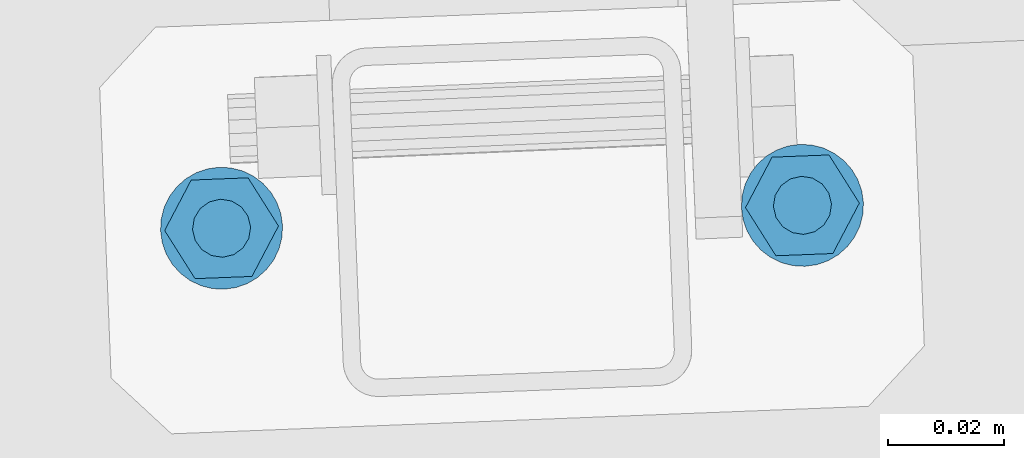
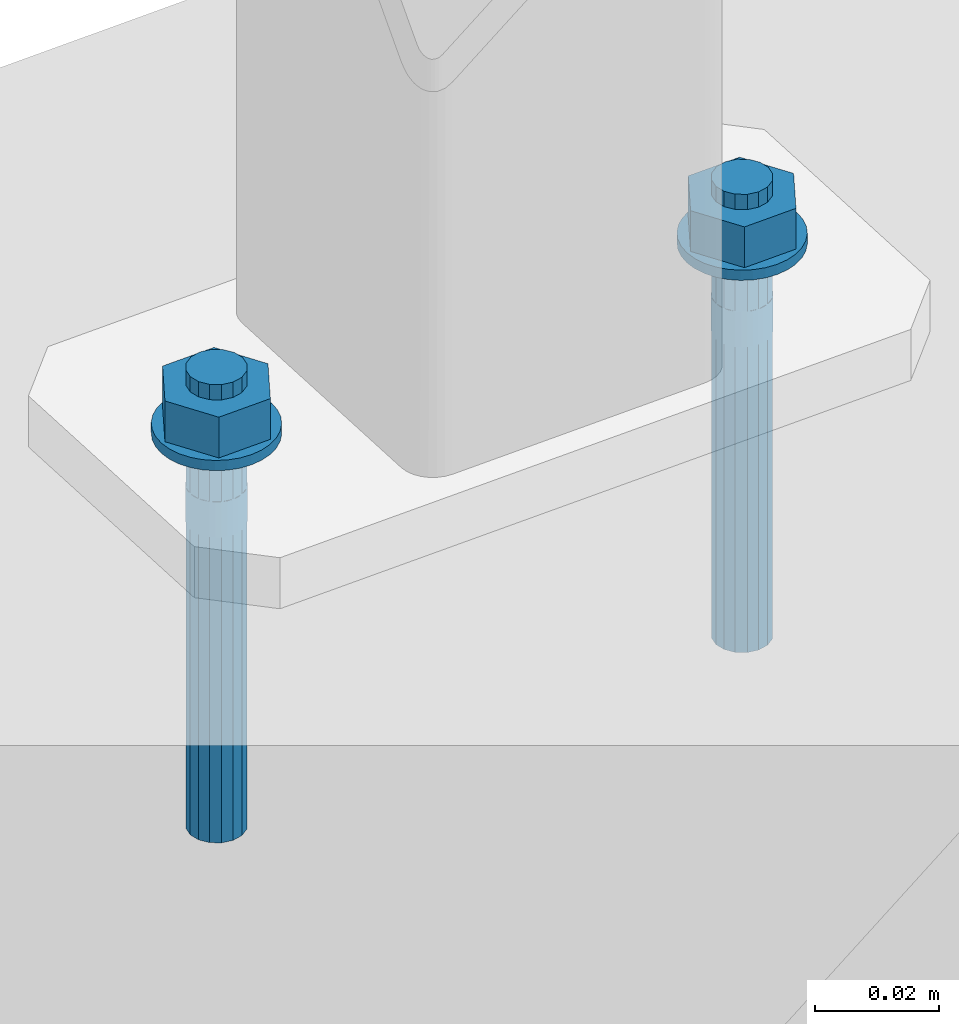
# One storey, part 269 of 288: 2 mechanical fasteners.
"""IFC2X3 building model written with IfcOpenShell, lengths in millimetres."""

from ifc_helpers import new_model, entity, si_unit, converted_unit, origin_with_axes, place, context, project, spatial, faceted_brep, element, save


model = new_model("IFC2X3")

# Units and contexts
model_context = context("Model", 3, precision=1e-09, world=origin_with_axes())
ifc_project = project(units=[si_unit("LENGTHUNIT", "METRE", prefix="MILLI"), si_unit("AREAUNIT", "SQUARE_METRE"), si_unit("VOLUMEUNIT", "CUBIC_METRE"), converted_unit("PLANEANGLEUNIT", "DEGREE", entity("IfcPlaneAngleMeasure", 0.01745329), si_unit("PLANEANGLEUNIT", "RADIAN"), dimensions=[0, 0, 0, 0, 0, 0, 0])], contexts=[model_context])

# Site, building, storey
site_placement = place(None, origin_with_axes())
site = spatial("IfcSite", under=ifc_project, at=site_placement, Name="Remont ?wietlik?w nad MC w NCPP w Opolu", CompositionType="ELEMENT")
building_placement = place(site_placement, origin_with_axes())
building = spatial("IfcBuilding", under=site, at=building_placement, Name="Konstrukcja 1", CompositionType="ELEMENT")
storey_placement = place(building_placement, origin_with_axes())
storey = spatial("IfcBuildingStorey", under=building, at=storey_placement, Name="Default Storey", CompositionType="ELEMENT", Elevation=0.0)

# Mechanical fasteners
mechanical_fastener_1_placement = place(None, origin_with_axes())
element("IfcMechanicalFastener", 1, at=mechanical_fastener_1_placement, inside=storey, ObjectType="Anchor_Bolt", NominalDiameter=10.0, NominalLength=90.0, context=model_context, shape_type="Brep", body=[
    faceted_brep([(9884.577256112, 13947.524081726, 12.000000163), (9884.577256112, 13947.524081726, 10.000000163), (9882.538345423, 13947.241789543, 10.000000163), (9882.538345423, 13947.241789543, 12.000000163), (9880.593684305, 13946.567149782, 10.000000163), (9880.593684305, 13946.567149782, 12.000000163), (9878.818004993, 13945.526088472, 10.000000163), (9878.818004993, 13945.526088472, 12.000000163), (9877.279545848, 13944.158613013, 10.000000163), (9877.279545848, 13944.158613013, 12.000000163), (9876.037428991, 13942.517274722, 10.000000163), (9876.037428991, 13942.517274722, 12.000000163), (9875.139388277, 13940.665149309, 10.000000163), (9875.139388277, 13940.665149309, 12.000000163), (9874.619934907, 13938.673412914, 10.000000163), (9874.619934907, 13938.673412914, 12.000000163), (9874.499031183, 13936.61860685, 10.000000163), (9874.499031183, 13936.61860685, 12.000000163), (9874.781323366, 13934.579696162, 10.000000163), (9874.781323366, 13934.579696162, 12.000000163), (9875.455963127, 13932.635035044, 10.000000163), (9875.455963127, 13932.635035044, 12.000000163), (9876.497024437, 13930.859355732, 10.000000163), (9876.497024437, 13930.859355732, 12.000000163), (9877.864499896, 13929.320896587, 10.000000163), (9877.864499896, 13929.320896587, 12.000000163), (9879.505838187, 13928.07877973, 10.000000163), (9879.505838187, 13928.07877973, 12.000000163), (9881.3579636, 13927.180739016, 10.000000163), (9881.3579636, 13927.180739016, 12.000000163), (9883.349699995, 13926.661285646, 10.000000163), (9883.349699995, 13926.661285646, 12.000000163), (9885.404506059, 13926.540381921, 10.000000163), (9885.404506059, 13926.540381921, 12.000000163), (9887.443416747, 13926.822674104, 10.000000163), (9887.443416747, 13926.822674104, 12.000000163), (9889.388077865, 13927.497313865, 10.000000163), (9889.388077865, 13927.497313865, 12.000000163), (9891.163757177, 13928.538375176, 10.000000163), (9891.163757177, 13928.538375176, 12.000000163), (9892.702216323, 13929.905850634, 10.000000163), (9892.702216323, 13929.905850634, 12.000000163), (9893.944333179, 13931.547188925, 10.000000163), (9893.944333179, 13931.547188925, 12.000000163), (9894.842373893, 13933.399314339, 10.000000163), (9894.842373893, 13933.399314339, 12.000000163), (9895.361827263, 13935.391050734, 10.000000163), (9895.361827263, 13935.391050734, 12.000000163), (9895.482730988, 13937.445856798, 10.000000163), (9895.482730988, 13937.445856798, 12.000000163), (9895.200438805, 13939.484767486, 10.000000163), (9895.200438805, 13939.484767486, 12.000000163), (9894.525799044, 13941.429428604, 10.000000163), (9894.525799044, 13941.429428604, 12.000000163), (9893.484737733, 13943.205107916, 10.000000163), (9893.484737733, 13943.205107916, 12.000000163), (9892.117262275, 13944.743567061, 10.000000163), (9892.117262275, 13944.743567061, 12.000000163), (9890.475923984, 13945.985683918, 10.000000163), (9890.475923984, 13945.985683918, 12.000000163), (9888.623798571, 13946.883724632, 10.000000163), (9888.623798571, 13946.883724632, 12.000000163), (9886.632062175, 13947.403178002, 10.000000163), (9886.632062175, 13947.403178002, 12.000000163)], [[[0, 1, 2, 3]], [[3, 2, 4, 5]], [[5, 4, 6, 7]], [[7, 6, 8, 9]], [[9, 8, 10, 11]], [[11, 10, 12, 13]], [[13, 12, 14, 15]], [[15, 14, 16, 17]], [[17, 16, 18, 19]], [[19, 18, 20, 21]], [[21, 20, 22, 23]], [[23, 22, 24, 25]], [[25, 24, 26, 27]], [[27, 26, 28, 29]], [[29, 28, 30, 31]], [[31, 30, 32, 33]], [[33, 32, 34, 35]], [[35, 34, 36, 37]], [[37, 36, 38, 39]], [[39, 38, 40, 41]], [[41, 40, 42, 43]], [[43, 42, 44, 45]], [[45, 44, 46, 47]], [[47, 46, 48, 49]], [[49, 48, 50, 51]], [[51, 50, 52, 53]], [[53, 52, 54, 55]], [[55, 54, 56, 57]], [[57, 56, 58, 59]], [[59, 58, 60, 61]], [[61, 60, 62, 63]], [[63, 62, 1, 0]], [[0, 3, 5, 7, 9, 11, 13, 15, 17, 19, 21, 23, 25, 27, 29, 31, 33, 35, 37, 39, 41, 43, 45, 47, 49, 51, 53, 55, 57, 59, 61, 63]], [[1, 62, 60, 58, 56, 54, 52, 50, 48, 46, 44, 42, 40, 38, 36, 34, 32, 30, 28, 26, 24, 22, 20, 18, 16, 14, 12, 10, 8, 6, 4, 2]]]),
    faceted_brep([(9880.42901355, 13928.358745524, 12.000000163), (9880.42901355, 13928.358745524, 20.000000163), (9875.198487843, 13936.646181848, 20.000000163), (9875.198487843, 13936.646181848, 12.000000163), (9879.760355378, 13945.319668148, 20.000000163), (9879.760355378, 13945.319668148, 12.000000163), (9889.552748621, 13945.705718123, 20.000000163), (9889.552748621, 13945.705718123, 12.000000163), (9894.783274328, 13937.418281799, 20.000000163), (9894.783274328, 13937.418281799, 12.000000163), (9890.221406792, 13928.7447955, 20.000000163), (9890.221406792, 13928.7447955, 12.000000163)], [[[0, 1, 2, 3]], [[3, 2, 4, 5]], [[5, 4, 6, 7]], [[7, 6, 8, 9]], [[9, 8, 10, 11]], [[11, 10, 1, 0]], [[4, 2, 1, 10, 8, 6]], [[0, 3, 5, 7, 9, 11]]]),
    faceted_brep([(9884.793916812, 13942.028350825, 23.000000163), (9884.793916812, 13942.028350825, 20.000000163), (9882.896977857, 13941.572668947, 20.000000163), (9882.896977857, 13941.572668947, 23.000000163), (9881.318816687, 13940.425746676, 20.000000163), (9881.318816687, 13940.425746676, 23.000000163), (9880.299694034, 13938.762192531, 20.000000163), (9880.299694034, 13938.762192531, 23.000000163), (9879.994762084, 13936.835267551, 20.000000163), (9879.994762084, 13936.835267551, 23.000000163), (9880.450443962, 13934.938328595, 20.000000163), (9880.450443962, 13934.938328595, 23.000000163), (9881.597366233, 13933.360167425, 20.000000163), (9881.597366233, 13933.360167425, 23.000000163), (9883.260920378, 13932.341044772, 20.000000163), (9883.260920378, 13932.341044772, 23.000000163), (9885.187845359, 13932.036112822, 20.000000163), (9885.187845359, 13932.036112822, 23.000000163), (9887.084784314, 13932.491794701, 20.000000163), (9887.084784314, 13932.491794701, 23.000000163), (9888.662945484, 13933.638716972, 20.000000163), (9888.662945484, 13933.638716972, 23.000000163), (9889.682068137, 13935.302271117, 20.000000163), (9889.682068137, 13935.302271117, 23.000000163), (9889.987000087, 13937.229196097, 20.000000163), (9889.987000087, 13937.229196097, 23.000000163), (9889.531318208, 13939.126135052, 20.000000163), (9889.531318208, 13939.126135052, 23.000000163), (9888.384395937, 13940.704296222, 20.000000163), (9888.384395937, 13940.704296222, 23.000000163), (9886.720841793, 13941.723418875, 20.000000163), (9886.720841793, 13941.723418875, 23.000000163)], [[[0, 1, 2, 3]], [[3, 2, 4, 5]], [[5, 4, 6, 7]], [[7, 6, 8, 9]], [[9, 8, 10, 11]], [[11, 10, 12, 13]], [[13, 12, 14, 15]], [[15, 14, 16, 17]], [[17, 16, 18, 19]], [[19, 18, 20, 21]], [[21, 20, 22, 23]], [[23, 22, 24, 25]], [[25, 24, 26, 27]], [[27, 26, 28, 29]], [[29, 28, 30, 31]], [[31, 30, 1, 0]], [[0, 3, 5, 7, 9, 11, 13, 15, 17, 19, 21, 23, 25, 27, 29, 31]], [[1, 30, 28, 26, 24, 22, 20, 18, 16, 14, 12, 10, 8, 6, 4, 2]]]),
    faceted_brep([(9884.793916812, 13942.028350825, 10.000000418), (9884.793916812, 13942.028350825, 1.63e-07), (9882.896977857, 13941.572668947, 1.63e-07), (9882.896977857, 13941.572668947, 10.000000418), (9881.318816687, 13940.425746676, 1.63e-07), (9881.318816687, 13940.425746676, 10.000000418), (9880.299694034, 13938.762192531, 1.63e-07), (9880.299694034, 13938.762192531, 10.000000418), (9879.994762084, 13936.835267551, 1.63e-07), (9879.994762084, 13936.835267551, 10.000000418), (9880.450443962, 13934.938328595, 1.63e-07), (9880.450443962, 13934.938328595, 10.000000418), (9881.597366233, 13933.360167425, 1.63e-07), (9881.597366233, 13933.360167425, 10.000000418), (9883.260920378, 13932.341044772, 1.63e-07), (9883.260920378, 13932.341044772, 10.000000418), (9885.187845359, 13932.036112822, 1.63e-07), (9885.187845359, 13932.036112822, 10.000000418), (9887.084784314, 13932.491794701, 1.63e-07), (9887.084784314, 13932.491794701, 10.000000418), (9888.662945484, 13933.638716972, 1.63e-07), (9888.662945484, 13933.638716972, 10.000000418), (9889.682068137, 13935.302271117, 1.63e-07), (9889.682068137, 13935.302271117, 10.000000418), (9889.987000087, 13937.229196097, 1.63e-07), (9889.987000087, 13937.229196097, 10.000000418), (9889.531318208, 13939.126135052, 1.63e-07), (9889.531318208, 13939.126135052, 10.000000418), (9888.384395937, 13940.704296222, 1.63e-07), (9888.384395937, 13940.704296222, 10.000000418), (9886.720841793, 13941.723418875, 1.63e-07), (9886.720841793, 13941.723418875, 10.000000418)], [[[0, 1, 2, 3]], [[3, 2, 4, 5]], [[5, 4, 6, 7]], [[7, 6, 8, 9]], [[9, 8, 10, 11]], [[11, 10, 12, 13]], [[13, 12, 14, 15]], [[15, 14, 16, 17]], [[17, 16, 18, 19]], [[19, 18, 20, 21]], [[21, 20, 22, 23]], [[23, 22, 24, 25]], [[25, 24, 26, 27]], [[27, 26, 28, 29]], [[29, 28, 30, 31]], [[31, 30, 1, 0]], [[0, 3, 5, 7, 9, 11, 13, 15, 17, 19, 21, 23, 25, 27, 29, 31]], [[1, 30, 28, 26, 24, 22, 20, 18, 16, 14, 12, 10, 8, 6, 4, 2]]]),
    faceted_brep([(9884.793916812, 13942.028350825, -9.3e-08), (9884.793916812, 13942.028350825, -6.999999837), (9883.823006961, 13941.893925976, -6.999999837), (9883.823006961, 13941.893925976, -9.3e-08), (9882.896977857, 13941.572668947, -6.999999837), (9882.896977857, 13941.572668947, -9.3e-08), (9882.05141628, 13941.076925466, -6.999999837), (9882.05141628, 13941.076925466, -9.3e-08), (9881.318816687, 13940.425746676, -6.999999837), (9881.318816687, 13940.425746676, -9.3e-08), (9880.727332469, 13939.644157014, -6.999999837), (9880.727332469, 13939.644157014, -9.3e-08), (9880.299694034, 13938.762192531, -6.999999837), (9880.299694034, 13938.762192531, -9.3e-08), (9880.052335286, 13937.813746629, -6.999999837), (9880.052335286, 13937.813746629, -9.3e-08), (9879.994762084, 13936.835267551, -6.999999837), (9879.994762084, 13936.835267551, -9.3e-08), (9880.129186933, 13935.864357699, -6.999999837), (9880.129186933, 13935.864357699, -9.3e-08), (9880.450443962, 13934.938328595, -6.999999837), (9880.450443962, 13934.938328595, -9.3e-08), (9880.946187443, 13934.092767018, -6.999999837), (9880.946187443, 13934.092767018, -9.3e-08), (9881.597366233, 13933.360167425, -6.999999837), (9881.597366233, 13933.360167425, -9.3e-08), (9882.378955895, 13932.768683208, -6.999999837), (9882.378955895, 13932.768683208, -9.3e-08), (9883.260920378, 13932.341044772, -6.999999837), (9883.260920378, 13932.341044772, -9.3e-08), (9884.20936628, 13932.093686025, -6.999999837), (9884.20936628, 13932.093686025, -9.3e-08), (9885.187845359, 13932.036112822, -6.999999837), (9885.187845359, 13932.036112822, -9.3e-08), (9886.15875521, 13932.170537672, -6.999999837), (9886.15875521, 13932.170537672, -9.3e-08), (9887.084784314, 13932.491794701, -6.999999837), (9887.084784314, 13932.491794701, -9.3e-08), (9887.930345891, 13932.987538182, -6.999999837), (9887.930345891, 13932.987538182, -9.3e-08), (9888.662945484, 13933.638716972, -6.999999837), (9888.662945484, 13933.638716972, -9.3e-08), (9889.254429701, 13934.420306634, -6.999999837), (9889.254429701, 13934.420306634, -9.3e-08), (9889.682068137, 13935.302271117, -6.999999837), (9889.682068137, 13935.302271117, -9.3e-08), (9889.929426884, 13936.250717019, -6.999999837), (9889.929426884, 13936.250717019, -9.3e-08), (9889.987000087, 13937.229196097, -6.999999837), (9889.987000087, 13937.229196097, -9.3e-08), (9889.852575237, 13938.200105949, -6.999999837), (9889.852575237, 13938.200105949, -9.3e-08), (9889.531318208, 13939.126135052, -6.999999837), (9889.531318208, 13939.126135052, -9.3e-08), (9889.035574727, 13939.971696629, -6.999999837), (9889.035574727, 13939.971696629, -9.3e-08), (9888.384395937, 13940.704296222, -6.999999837), (9888.384395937, 13940.704296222, -9.3e-08), (9887.602806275, 13941.29578044, -6.999999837), (9887.602806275, 13941.29578044, -9.3e-08), (9886.720841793, 13941.723418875, -6.999999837), (9886.720841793, 13941.723418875, -9.3e-08), (9885.77239589, 13941.970777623, -6.999999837), (9885.77239589, 13941.970777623, -9.3e-08)], [[[0, 1, 2, 3]], [[3, 2, 4, 5]], [[5, 4, 6, 7]], [[7, 6, 8, 9]], [[9, 8, 10, 11]], [[11, 10, 12, 13]], [[13, 12, 14, 15]], [[15, 14, 16, 17]], [[17, 16, 18, 19]], [[19, 18, 20, 21]], [[21, 20, 22, 23]], [[23, 22, 24, 25]], [[25, 24, 26, 27]], [[27, 26, 28, 29]], [[29, 28, 30, 31]], [[31, 30, 32, 33]], [[33, 32, 34, 35]], [[35, 34, 36, 37]], [[37, 36, 38, 39]], [[39, 38, 40, 41]], [[41, 40, 42, 43]], [[43, 42, 44, 45]], [[45, 44, 46, 47]], [[47, 46, 48, 49]], [[49, 48, 50, 51]], [[51, 50, 52, 53]], [[53, 52, 54, 55]], [[55, 54, 56, 57]], [[57, 56, 58, 59]], [[59, 58, 60, 61]], [[61, 60, 62, 63]], [[63, 62, 1, 0]], [[0, 3, 5, 7, 9, 11, 13, 15, 17, 19, 21, 23, 25, 27, 29, 31, 33, 35, 37, 39, 41, 43, 45, 47, 49, 51, 53, 55, 57, 59, 61, 63]], [[1, 62, 60, 58, 56, 54, 52, 50, 48, 46, 44, 42, 40, 38, 36, 34, 32, 30, 28, 26, 24, 22, 20, 18, 16, 14, 12, 10, 8, 6, 4, 2]]]),
    faceted_brep([(9884.793916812, 13942.028350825, -6.999999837), (9884.793916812, 13942.028350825, -66.999999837), (9882.896977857, 13941.572668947, -66.999999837), (9882.896977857, 13941.572668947, -6.999999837), (9881.318816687, 13940.425746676, -66.999999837), (9881.318816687, 13940.425746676, -6.999999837), (9880.299694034, 13938.762192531, -66.999999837), (9880.299694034, 13938.762192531, -6.999999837), (9879.994762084, 13936.835267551, -66.999999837), (9879.994762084, 13936.835267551, -6.999999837), (9880.450443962, 13934.938328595, -66.999999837), (9880.450443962, 13934.938328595, -6.999999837), (9881.597366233, 13933.360167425, -66.999999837), (9881.597366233, 13933.360167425, -6.999999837), (9883.260920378, 13932.341044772, -66.999999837), (9883.260920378, 13932.341044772, -6.999999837), (9885.187845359, 13932.036112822, -66.999999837), (9885.187845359, 13932.036112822, -6.999999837), (9887.084784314, 13932.491794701, -66.999999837), (9887.084784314, 13932.491794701, -6.999999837), (9888.662945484, 13933.638716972, -66.999999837), (9888.662945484, 13933.638716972, -6.999999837), (9889.682068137, 13935.302271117, -66.999999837), (9889.682068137, 13935.302271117, -6.999999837), (9889.987000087, 13937.229196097, -66.999999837), (9889.987000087, 13937.229196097, -6.999999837), (9889.531318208, 13939.126135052, -66.999999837), (9889.531318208, 13939.126135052, -6.999999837), (9888.384395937, 13940.704296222, -66.999999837), (9888.384395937, 13940.704296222, -6.999999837), (9886.720841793, 13941.723418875, -66.999999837), (9886.720841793, 13941.723418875, -6.999999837)], [[[0, 1, 2, 3]], [[3, 2, 4, 5]], [[5, 4, 6, 7]], [[7, 6, 8, 9]], [[9, 8, 10, 11]], [[11, 10, 12, 13]], [[13, 12, 14, 15]], [[15, 14, 16, 17]], [[17, 16, 18, 19]], [[19, 18, 20, 21]], [[21, 20, 22, 23]], [[23, 22, 24, 25]], [[25, 24, 26, 27]], [[27, 26, 28, 29]], [[29, 28, 30, 31]], [[31, 30, 1, 0]], [[0, 3, 5, 7, 9, 11, 13, 15, 17, 19, 21, 23, 25, 27, 29, 31]], [[1, 30, 28, 26, 24, 22, 20, 18, 16, 14, 12, 10, 8, 6, 4, 2]]]),
])
mechanical_fastener_2_placement = place(None, origin_with_axes())
element("IfcMechanicalFastener", 2, at=mechanical_fastener_2_placement, inside=storey, ObjectType="Anchor_Bolt", NominalDiameter=10.0, NominalLength=90.0, context=model_context, shape_type="Brep", body=[
    faceted_brep([(9784.654876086, 13943.584796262, 12.000000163), (9784.654876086, 13943.584796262, 10.000000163), (9782.615965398, 13943.302504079, 10.000000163), (9782.615965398, 13943.302504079, 12.000000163), (9780.671304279, 13942.627864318, 10.000000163), (9780.671304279, 13942.627864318, 12.000000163), (9778.895624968, 13941.586803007, 10.000000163), (9778.895624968, 13941.586803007, 12.000000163), (9777.357165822, 13940.219327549, 10.000000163), (9777.357165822, 13940.219327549, 12.000000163), (9776.115048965, 13938.577989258, 10.000000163), (9776.115048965, 13938.577989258, 12.000000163), (9775.217008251, 13936.725863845, 10.000000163), (9775.217008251, 13936.725863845, 12.000000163), (9774.697554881, 13934.73412745, 10.000000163), (9774.697554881, 13934.73412745, 12.000000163), (9774.576651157, 13932.679321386, 10.000000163), (9774.576651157, 13932.679321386, 12.000000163), (9774.85894334, 13930.640410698, 10.000000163), (9774.85894334, 13930.640410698, 12.000000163), (9775.533583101, 13928.695749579, 10.000000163), (9775.533583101, 13928.695749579, 12.000000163), (9776.574644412, 13926.920070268, 10.000000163), (9776.574644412, 13926.920070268, 12.000000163), (9777.94211987, 13925.381611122, 10.000000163), (9777.94211987, 13925.381611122, 12.000000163), (9779.583458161, 13924.139494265, 10.000000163), (9779.583458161, 13924.139494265, 12.000000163), (9781.435583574, 13923.241453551, 10.000000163), (9781.435583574, 13923.241453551, 12.000000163), (9783.427319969, 13922.722000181, 10.000000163), (9783.427319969, 13922.722000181, 12.000000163), (9785.482126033, 13922.601096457, 10.000000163), (9785.482126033, 13922.601096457, 12.000000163), (9787.521036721, 13922.88338864, 10.000000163), (9787.521036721, 13922.88338864, 12.000000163), (9789.465697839, 13923.558028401, 10.000000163), (9789.465697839, 13923.558028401, 12.000000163), (9791.241377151, 13924.599089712, 10.000000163), (9791.241377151, 13924.599089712, 12.000000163), (9792.779836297, 13925.96656517, 10.000000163), (9792.779836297, 13925.96656517, 12.000000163), (9794.021953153, 13927.607903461, 10.000000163), (9794.021953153, 13927.607903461, 12.000000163), (9794.919993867, 13929.460028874, 10.000000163), (9794.919993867, 13929.460028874, 12.000000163), (9795.439447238, 13931.451765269, 10.000000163), (9795.439447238, 13931.451765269, 12.000000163), (9795.560350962, 13933.506571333, 10.000000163), (9795.560350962, 13933.506571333, 12.000000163), (9795.278058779, 13935.545482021, 10.000000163), (9795.278058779, 13935.545482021, 12.000000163), (9794.603419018, 13937.490143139, 10.000000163), (9794.603419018, 13937.490143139, 12.000000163), (9793.562357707, 13939.265822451, 10.000000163), (9793.562357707, 13939.265822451, 12.000000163), (9792.194882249, 13940.804281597, 10.000000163), (9792.194882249, 13940.804281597, 12.000000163), (9790.553543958, 13942.046398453, 10.000000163), (9790.553543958, 13942.046398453, 12.000000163), (9788.701418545, 13942.944439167, 10.000000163), (9788.701418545, 13942.944439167, 12.000000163), (9786.70968215, 13943.463892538, 10.000000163), (9786.70968215, 13943.463892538, 12.000000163)], [[[0, 1, 2, 3]], [[3, 2, 4, 5]], [[5, 4, 6, 7]], [[7, 6, 8, 9]], [[9, 8, 10, 11]], [[11, 10, 12, 13]], [[13, 12, 14, 15]], [[15, 14, 16, 17]], [[17, 16, 18, 19]], [[19, 18, 20, 21]], [[21, 20, 22, 23]], [[23, 22, 24, 25]], [[25, 24, 26, 27]], [[27, 26, 28, 29]], [[29, 28, 30, 31]], [[31, 30, 32, 33]], [[33, 32, 34, 35]], [[35, 34, 36, 37]], [[37, 36, 38, 39]], [[39, 38, 40, 41]], [[41, 40, 42, 43]], [[43, 42, 44, 45]], [[45, 44, 46, 47]], [[47, 46, 48, 49]], [[49, 48, 50, 51]], [[51, 50, 52, 53]], [[53, 52, 54, 55]], [[55, 54, 56, 57]], [[57, 56, 58, 59]], [[59, 58, 60, 61]], [[61, 60, 62, 63]], [[63, 62, 1, 0]], [[0, 3, 5, 7, 9, 11, 13, 15, 17, 19, 21, 23, 25, 27, 29, 31, 33, 35, 37, 39, 41, 43, 45, 47, 49, 51, 53, 55, 57, 59, 61, 63]], [[1, 62, 60, 58, 56, 54, 52, 50, 48, 46, 44, 42, 40, 38, 36, 34, 32, 30, 28, 26, 24, 22, 20, 18, 16, 14, 12, 10, 8, 6, 4, 2]]]),
    faceted_brep([(9780.506633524, 13924.41946006, 12.000000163), (9780.506633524, 13924.41946006, 20.000000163), (9775.276107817, 13932.706896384, 20.000000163), (9775.276107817, 13932.706896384, 12.000000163), (9779.837975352, 13941.380382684, 20.000000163), (9779.837975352, 13941.380382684, 12.000000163), (9789.630368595, 13941.766432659, 20.000000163), (9789.630368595, 13941.766432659, 12.000000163), (9794.860894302, 13933.478996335, 20.000000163), (9794.860894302, 13933.478996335, 12.000000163), (9790.299026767, 13924.805510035, 20.000000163), (9790.299026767, 13924.805510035, 12.000000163)], [[[0, 1, 2, 3]], [[3, 2, 4, 5]], [[5, 4, 6, 7]], [[7, 6, 8, 9]], [[9, 8, 10, 11]], [[11, 10, 1, 0]], [[4, 2, 1, 10, 8, 6]], [[0, 3, 5, 7, 9, 11]]]),
    faceted_brep([(9784.871536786, 13938.089065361, 23.000000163), (9784.871536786, 13938.089065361, 20.000000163), (9782.974597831, 13937.633383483, 20.000000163), (9782.974597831, 13937.633383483, 23.000000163), (9781.396436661, 13936.486461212, 20.000000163), (9781.396436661, 13936.486461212, 23.000000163), (9780.377314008, 13934.822907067, 20.000000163), (9780.377314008, 13934.822907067, 23.000000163), (9780.072382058, 13932.895982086, 20.000000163), (9780.072382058, 13932.895982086, 23.000000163), (9780.528063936, 13930.999043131, 20.000000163), (9780.528063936, 13930.999043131, 23.000000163), (9781.674986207, 13929.420881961, 20.000000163), (9781.674986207, 13929.420881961, 23.000000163), (9783.338540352, 13928.401759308, 20.000000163), (9783.338540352, 13928.401759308, 23.000000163), (9785.265465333, 13928.096827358, 20.000000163), (9785.265465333, 13928.096827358, 23.000000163), (9787.162404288, 13928.552509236, 20.000000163), (9787.162404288, 13928.552509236, 23.000000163), (9788.740565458, 13929.699431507, 20.000000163), (9788.740565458, 13929.699431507, 23.000000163), (9789.759688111, 13931.362985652, 20.000000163), (9789.759688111, 13931.362985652, 23.000000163), (9790.064620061, 13933.289910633, 20.000000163), (9790.064620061, 13933.289910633, 23.000000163), (9789.608938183, 13935.186849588, 20.000000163), (9789.608938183, 13935.186849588, 23.000000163), (9788.462015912, 13936.765010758, 20.000000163), (9788.462015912, 13936.765010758, 23.000000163), (9786.798461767, 13937.784133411, 20.000000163), (9786.798461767, 13937.784133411, 23.000000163)], [[[0, 1, 2, 3]], [[3, 2, 4, 5]], [[5, 4, 6, 7]], [[7, 6, 8, 9]], [[9, 8, 10, 11]], [[11, 10, 12, 13]], [[13, 12, 14, 15]], [[15, 14, 16, 17]], [[17, 16, 18, 19]], [[19, 18, 20, 21]], [[21, 20, 22, 23]], [[23, 22, 24, 25]], [[25, 24, 26, 27]], [[27, 26, 28, 29]], [[29, 28, 30, 31]], [[31, 30, 1, 0]], [[0, 3, 5, 7, 9, 11, 13, 15, 17, 19, 21, 23, 25, 27, 29, 31]], [[1, 30, 28, 26, 24, 22, 20, 18, 16, 14, 12, 10, 8, 6, 4, 2]]]),
    faceted_brep([(9784.871536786, 13938.089065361, 10.000000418), (9784.871536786, 13938.089065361, 1.63e-07), (9782.974597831, 13937.633383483, 1.63e-07), (9782.974597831, 13937.633383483, 10.000000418), (9781.396436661, 13936.486461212, 1.63e-07), (9781.396436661, 13936.486461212, 10.000000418), (9780.377314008, 13934.822907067, 1.63e-07), (9780.377314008, 13934.822907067, 10.000000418), (9780.072382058, 13932.895982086, 1.63e-07), (9780.072382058, 13932.895982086, 10.000000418), (9780.528063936, 13930.999043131, 1.63e-07), (9780.528063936, 13930.999043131, 10.000000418), (9781.674986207, 13929.420881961, 1.63e-07), (9781.674986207, 13929.420881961, 10.000000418), (9783.338540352, 13928.401759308, 1.63e-07), (9783.338540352, 13928.401759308, 10.000000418), (9785.265465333, 13928.096827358, 1.63e-07), (9785.265465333, 13928.096827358, 10.000000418), (9787.162404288, 13928.552509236, 1.63e-07), (9787.162404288, 13928.552509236, 10.000000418), (9788.740565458, 13929.699431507, 1.63e-07), (9788.740565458, 13929.699431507, 10.000000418), (9789.759688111, 13931.362985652, 1.63e-07), (9789.759688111, 13931.362985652, 10.000000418), (9790.064620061, 13933.289910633, 1.63e-07), (9790.064620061, 13933.289910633, 10.000000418), (9789.608938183, 13935.186849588, 1.63e-07), (9789.608938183, 13935.186849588, 10.000000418), (9788.462015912, 13936.765010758, 1.63e-07), (9788.462015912, 13936.765010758, 10.000000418), (9786.798461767, 13937.784133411, 1.63e-07), (9786.798461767, 13937.784133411, 10.000000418)], [[[0, 1, 2, 3]], [[3, 2, 4, 5]], [[5, 4, 6, 7]], [[7, 6, 8, 9]], [[9, 8, 10, 11]], [[11, 10, 12, 13]], [[13, 12, 14, 15]], [[15, 14, 16, 17]], [[17, 16, 18, 19]], [[19, 18, 20, 21]], [[21, 20, 22, 23]], [[23, 22, 24, 25]], [[25, 24, 26, 27]], [[27, 26, 28, 29]], [[29, 28, 30, 31]], [[31, 30, 1, 0]], [[0, 3, 5, 7, 9, 11, 13, 15, 17, 19, 21, 23, 25, 27, 29, 31]], [[1, 30, 28, 26, 24, 22, 20, 18, 16, 14, 12, 10, 8, 6, 4, 2]]]),
    faceted_brep([(9784.871536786, 13938.089065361, -9.3e-08), (9784.871536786, 13938.089065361, -6.999999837), (9783.900626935, 13937.954640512, -6.999999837), (9783.900626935, 13937.954640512, -9.3e-08), (9782.974597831, 13937.633383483, -6.999999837), (9782.974597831, 13937.633383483, -9.3e-08), (9782.129036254, 13937.137640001, -6.999999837), (9782.129036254, 13937.137640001, -9.3e-08), (9781.396436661, 13936.486461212, -6.999999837), (9781.396436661, 13936.486461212, -9.3e-08), (9780.804952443, 13935.704871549, -6.999999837), (9780.804952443, 13935.704871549, -9.3e-08), (9780.377314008, 13934.822907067, -6.999999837), (9780.377314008, 13934.822907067, -9.3e-08), (9780.12995526, 13933.874461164, -6.999999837), (9780.12995526, 13933.874461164, -9.3e-08), (9780.072382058, 13932.895982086, -6.999999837), (9780.072382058, 13932.895982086, -9.3e-08), (9780.206806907, 13931.925072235, -6.999999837), (9780.206806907, 13931.925072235, -9.3e-08), (9780.528063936, 13930.999043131, -6.999999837), (9780.528063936, 13930.999043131, -9.3e-08), (9781.023807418, 13930.153481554, -6.999999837), (9781.023807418, 13930.153481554, -9.3e-08), (9781.674986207, 13929.420881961, -6.999999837), (9781.674986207, 13929.420881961, -9.3e-08), (9782.45657587, 13928.829397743, -6.999999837), (9782.45657587, 13928.829397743, -9.3e-08), (9783.338540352, 13928.401759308, -6.999999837), (9783.338540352, 13928.401759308, -9.3e-08), (9784.286986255, 13928.15440056, -6.999999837), (9784.286986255, 13928.15440056, -9.3e-08), (9785.265465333, 13928.096827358, -6.999999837), (9785.265465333, 13928.096827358, -9.3e-08), (9786.236375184, 13928.231252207, -6.999999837), (9786.236375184, 13928.231252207, -9.3e-08), (9787.162404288, 13928.552509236, -6.999999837), (9787.162404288, 13928.552509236, -9.3e-08), (9788.007965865, 13929.048252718, -6.999999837), (9788.007965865, 13929.048252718, -9.3e-08), (9788.740565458, 13929.699431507, -6.999999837), (9788.740565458, 13929.699431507, -9.3e-08), (9789.332049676, 13930.48102117, -6.999999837), (9789.332049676, 13930.48102117, -9.3e-08), (9789.759688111, 13931.362985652, -6.999999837), (9789.759688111, 13931.362985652, -9.3e-08), (9790.007046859, 13932.311431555, -6.999999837), (9790.007046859, 13932.311431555, -9.3e-08), (9790.064620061, 13933.289910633, -6.999999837), (9790.064620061, 13933.289910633, -9.3e-08), (9789.930195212, 13934.260820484, -6.999999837), (9789.930195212, 13934.260820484, -9.3e-08), (9789.608938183, 13935.186849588, -6.999999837), (9789.608938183, 13935.186849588, -9.3e-08), (9789.113194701, 13936.032411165, -6.999999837), (9789.113194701, 13936.032411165, -9.3e-08), (9788.462015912, 13936.765010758, -6.999999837), (9788.462015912, 13936.765010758, -9.3e-08), (9787.680426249, 13937.356494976, -6.999999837), (9787.680426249, 13937.356494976, -9.3e-08), (9786.798461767, 13937.784133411, -6.999999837), (9786.798461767, 13937.784133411, -9.3e-08), (9785.850015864, 13938.031492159, -6.999999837), (9785.850015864, 13938.031492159, -9.3e-08)], [[[0, 1, 2, 3]], [[3, 2, 4, 5]], [[5, 4, 6, 7]], [[7, 6, 8, 9]], [[9, 8, 10, 11]], [[11, 10, 12, 13]], [[13, 12, 14, 15]], [[15, 14, 16, 17]], [[17, 16, 18, 19]], [[19, 18, 20, 21]], [[21, 20, 22, 23]], [[23, 22, 24, 25]], [[25, 24, 26, 27]], [[27, 26, 28, 29]], [[29, 28, 30, 31]], [[31, 30, 32, 33]], [[33, 32, 34, 35]], [[35, 34, 36, 37]], [[37, 36, 38, 39]], [[39, 38, 40, 41]], [[41, 40, 42, 43]], [[43, 42, 44, 45]], [[45, 44, 46, 47]], [[47, 46, 48, 49]], [[49, 48, 50, 51]], [[51, 50, 52, 53]], [[53, 52, 54, 55]], [[55, 54, 56, 57]], [[57, 56, 58, 59]], [[59, 58, 60, 61]], [[61, 60, 62, 63]], [[63, 62, 1, 0]], [[0, 3, 5, 7, 9, 11, 13, 15, 17, 19, 21, 23, 25, 27, 29, 31, 33, 35, 37, 39, 41, 43, 45, 47, 49, 51, 53, 55, 57, 59, 61, 63]], [[1, 62, 60, 58, 56, 54, 52, 50, 48, 46, 44, 42, 40, 38, 36, 34, 32, 30, 28, 26, 24, 22, 20, 18, 16, 14, 12, 10, 8, 6, 4, 2]]]),
    faceted_brep([(9784.871536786, 13938.089065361, -6.999999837), (9784.871536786, 13938.089065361, -66.999999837), (9782.974597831, 13937.633383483, -66.999999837), (9782.974597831, 13937.633383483, -6.999999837), (9781.396436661, 13936.486461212, -66.999999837), (9781.396436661, 13936.486461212, -6.999999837), (9780.377314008, 13934.822907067, -66.999999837), (9780.377314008, 13934.822907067, -6.999999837), (9780.072382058, 13932.895982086, -66.999999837), (9780.072382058, 13932.895982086, -6.999999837), (9780.528063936, 13930.999043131, -66.999999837), (9780.528063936, 13930.999043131, -6.999999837), (9781.674986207, 13929.420881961, -66.999999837), (9781.674986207, 13929.420881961, -6.999999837), (9783.338540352, 13928.401759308, -66.999999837), (9783.338540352, 13928.401759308, -6.999999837), (9785.265465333, 13928.096827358, -66.999999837), (9785.265465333, 13928.096827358, -6.999999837), (9787.162404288, 13928.552509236, -66.999999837), (9787.162404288, 13928.552509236, -6.999999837), (9788.740565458, 13929.699431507, -66.999999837), (9788.740565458, 13929.699431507, -6.999999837), (9789.759688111, 13931.362985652, -66.999999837), (9789.759688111, 13931.362985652, -6.999999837), (9790.064620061, 13933.289910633, -66.999999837), (9790.064620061, 13933.289910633, -6.999999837), (9789.608938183, 13935.186849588, -66.999999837), (9789.608938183, 13935.186849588, -6.999999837), (9788.462015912, 13936.765010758, -66.999999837), (9788.462015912, 13936.765010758, -6.999999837), (9786.798461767, 13937.784133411, -66.999999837), (9786.798461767, 13937.784133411, -6.999999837)], [[[0, 1, 2, 3]], [[3, 2, 4, 5]], [[5, 4, 6, 7]], [[7, 6, 8, 9]], [[9, 8, 10, 11]], [[11, 10, 12, 13]], [[13, 12, 14, 15]], [[15, 14, 16, 17]], [[17, 16, 18, 19]], [[19, 18, 20, 21]], [[21, 20, 22, 23]], [[23, 22, 24, 25]], [[25, 24, 26, 27]], [[27, 26, 28, 29]], [[29, 28, 30, 31]], [[31, 30, 1, 0]], [[0, 3, 5, 7, 9, 11, 13, 15, 17, 19, 21, 23, 25, 27, 29, 31]], [[1, 30, 28, 26, 24, 22, 20, 18, 16, 14, 12, 10, 8, 6, 4, 2]]]),
])

save(model, "model.ifc")
